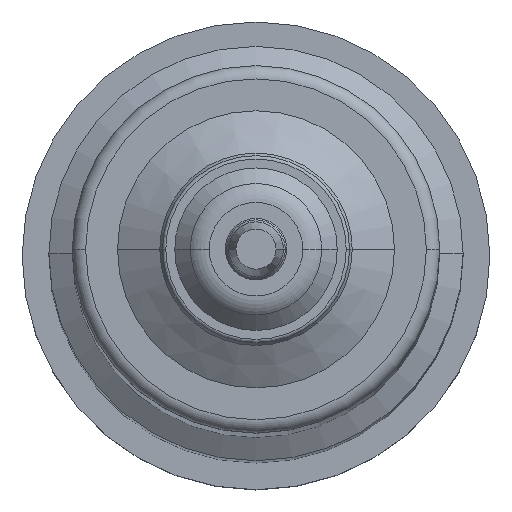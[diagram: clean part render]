
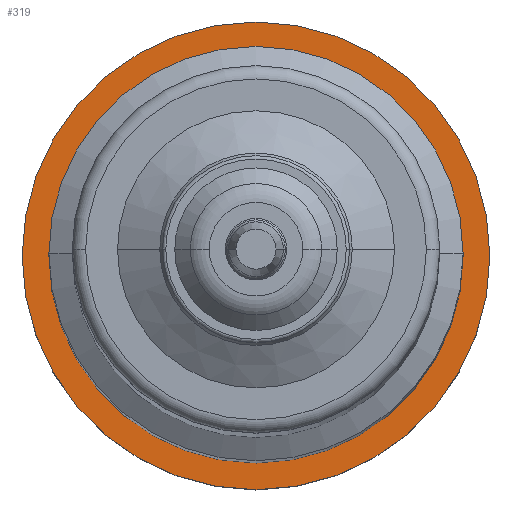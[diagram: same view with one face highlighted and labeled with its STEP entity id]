
A CAD part, top view. The second image highlights one B-rep face of the part: STEP entity #319.
In plain terms, the highlighted planar face has unit normal (0, 0, 1).
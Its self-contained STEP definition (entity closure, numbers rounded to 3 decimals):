
#3 = DIRECTION ( 'NONE',  ( 0., 0., 1. ) ) ;
#4 = DIRECTION ( 'NONE',  ( 0., 0., 1. ) ) ;
#120 = CARTESIAN_POINT ( 'NONE',  ( 31., 0., 35. ) ) ;
#141 = DIRECTION ( 'NONE',  ( -1., 0., 0. ) ) ;
#193 = EDGE_LOOP ( 'NONE', ( #1570, #376 ) ) ;
#248 = AXIS2_PLACEMENT_3D ( 'NONE', #1017, #3, #1316 ) ;
#290 = EDGE_CURVE ( 'NONE', #1330, #2065, #641, .T. ) ;
#303 = DIRECTION ( 'NONE',  ( -1., 0., 0. ) ) ;
#319 = ADVANCED_FACE ( 'NONE', ( #609, #1858 ), #456, .T. ) ;
#361 = CARTESIAN_POINT ( 'NONE',  ( 35., 0., 35. ) ) ;
#374 = CARTESIAN_POINT ( 'NONE',  ( 0., 0., 35. ) ) ;
#376 = ORIENTED_EDGE ( 'NONE', *, *, #1793, .F. ) ;
#456 = PLANE ( 'NONE',  #754 ) ;
#458 = EDGE_CURVE ( 'NONE', #2065, #1330, #1009, .T. ) ;
#502 = DIRECTION ( 'NONE',  ( -1., 0., 0. ) ) ;
#529 = EDGE_CURVE ( 'NONE', #1675, #620, #735, .T. ) ;
#609 = FACE_BOUND ( 'NONE', #193, .T. ) ;
#620 = VERTEX_POINT ( 'NONE', #1979 ) ;
#641 = CIRCLE ( 'NONE', #1272, 35. ) ;
#735 = CIRCLE ( 'NONE', #1933, 31. ) ;
#754 = AXIS2_PLACEMENT_3D ( 'NONE', #1945, #1755, #303 ) ;
#809 = CARTESIAN_POINT ( 'NONE',  ( 0., 0., 35. ) ) ;
#845 = CARTESIAN_POINT ( 'NONE',  ( 0., 0., 35. ) ) ;
#880 = DIRECTION ( 'NONE',  ( -1., 0., 0. ) ) ;
#1009 = CIRCLE ( 'NONE', #248, 35. ) ;
#1017 = CARTESIAN_POINT ( 'NONE',  ( 0., 0., 35. ) ) ;
#1047 = EDGE_LOOP ( 'NONE', ( #1165, #1639 ) ) ;
#1053 = DIRECTION ( 'NONE',  ( 0., 0., 1. ) ) ;
#1144 = CIRCLE ( 'NONE', #2043, 31. ) ;
#1165 = ORIENTED_EDGE ( 'NONE', *, *, #290, .T. ) ;
#1231 = CARTESIAN_POINT ( 'NONE',  ( -35., 0., 35. ) ) ;
#1272 = AXIS2_PLACEMENT_3D ( 'NONE', #809, #1445, #141 ) ;
#1316 = DIRECTION ( 'NONE',  ( -1., 0., 0. ) ) ;
#1330 = VERTEX_POINT ( 'NONE', #361 ) ;
#1445 = DIRECTION ( 'NONE',  ( 0., 0., 1. ) ) ;
#1570 = ORIENTED_EDGE ( 'NONE', *, *, #529, .F. ) ;
#1639 = ORIENTED_EDGE ( 'NONE', *, *, #458, .T. ) ;
#1675 = VERTEX_POINT ( 'NONE', #120 ) ;
#1755 = DIRECTION ( 'NONE',  ( 0., 0., 1. ) ) ;
#1793 = EDGE_CURVE ( 'NONE', #620, #1675, #1144, .T. ) ;
#1858 = FACE_OUTER_BOUND ( 'NONE', #1047, .T. ) ;
#1933 = AXIS2_PLACEMENT_3D ( 'NONE', #374, #1053, #880 ) ;
#1945 = CARTESIAN_POINT ( 'NONE',  ( 0., 0., 35. ) ) ;
#1979 = CARTESIAN_POINT ( 'NONE',  ( -31., 0., 35. ) ) ;
#2043 = AXIS2_PLACEMENT_3D ( 'NONE', #845, #4, #502 ) ;
#2065 = VERTEX_POINT ( 'NONE', #1231 ) ;
